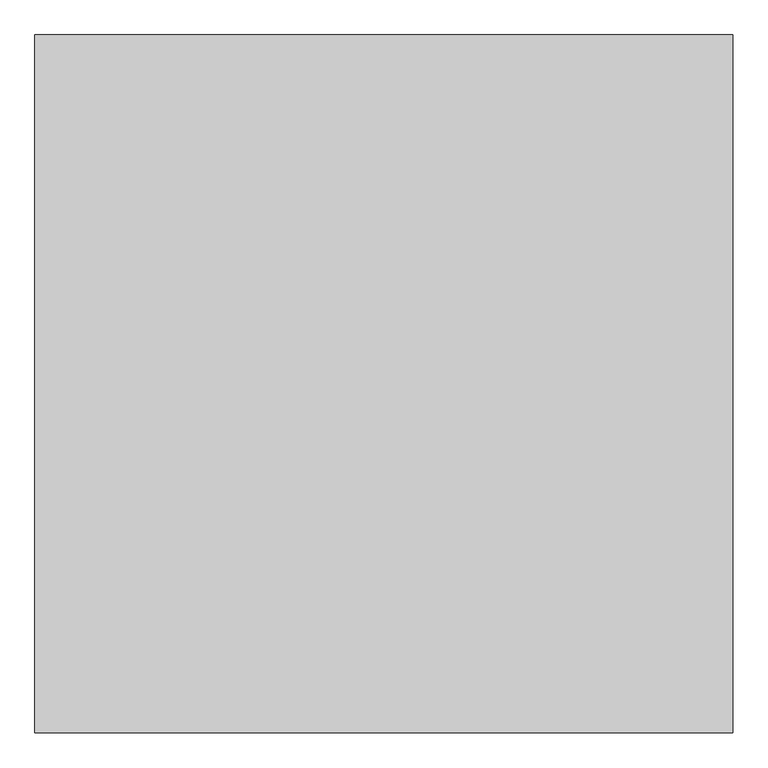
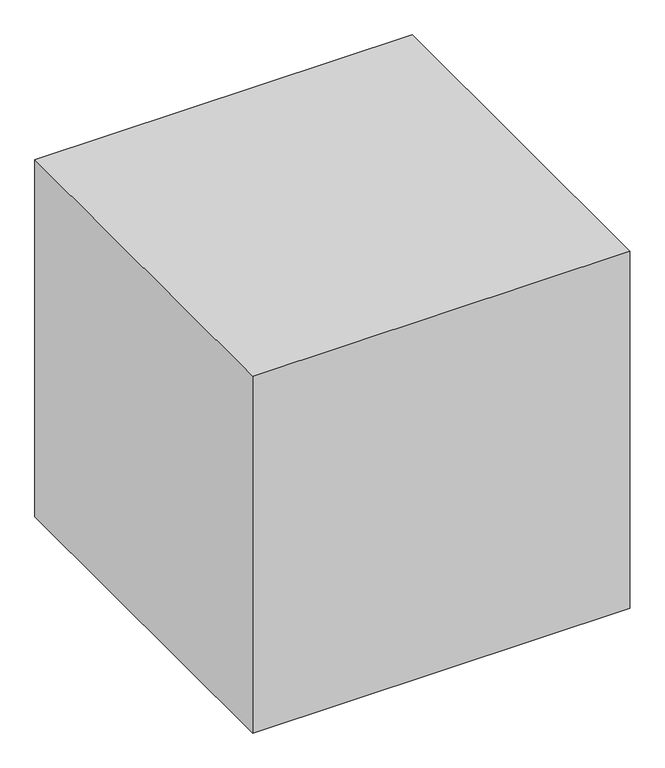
"""IFC4 building model written with IfcOpenShell, lengths in millimetres: proxy geometry, Revit的工作平面如果设置 : Revit的工作平面如果设置."""

from ifc_helpers import new_model, si_unit, origin, origin_with_axes, place, context, project, spatial, polyline, outline, extrude, source, transform, mapped, element, save


def generic_models_26dfa194(model_context):
    return source(origin(), model_context, "Body", "SweptSolid", [
        extrude(outline(polyline([(1000.0, 1000.0), (1000.0, -1000.0), (-1000.0, -1000.0), (-1000.0, 1000.0), (1000.0, 1000.0)])), origin_with_axes(), (0.0, 0.0, 1.0), 2000.0),
    ])


if __name__ == "__main__":
    model = new_model("IFC4")
    model_context = context("Model", 3, world=origin())
    ifc_project = project(units=[si_unit("LENGTHUNIT", "METRE", prefix="MILLI")], contexts=[model_context])
    site = spatial("IfcSite", under=ifc_project)
    building = spatial("IfcBuilding", under=site)
    placement = place(None, origin())
    generic_models_shape = generic_models_26dfa194(model_context)
    element("IfcBuildingElementProxy", 1, Name="Revit的工作平面如果设置 : Revit的工作平面如果设置", ObjectType="Revit的工作平面如果设置 : Revit的工作平面如果设置", at=placement, inside=building, context=model_context, shape_type="MappedRepresentation", body=[
        mapped(generic_models_shape, transform((0.0, 0.0, 0.0), x_axis=(1.0, 0.0, 0.0), y_axis=(0.0, 1.0, 0.0), z_axis=(0.0, 0.0, 1.0))),
    ])
    save(model, "model.ifc")
